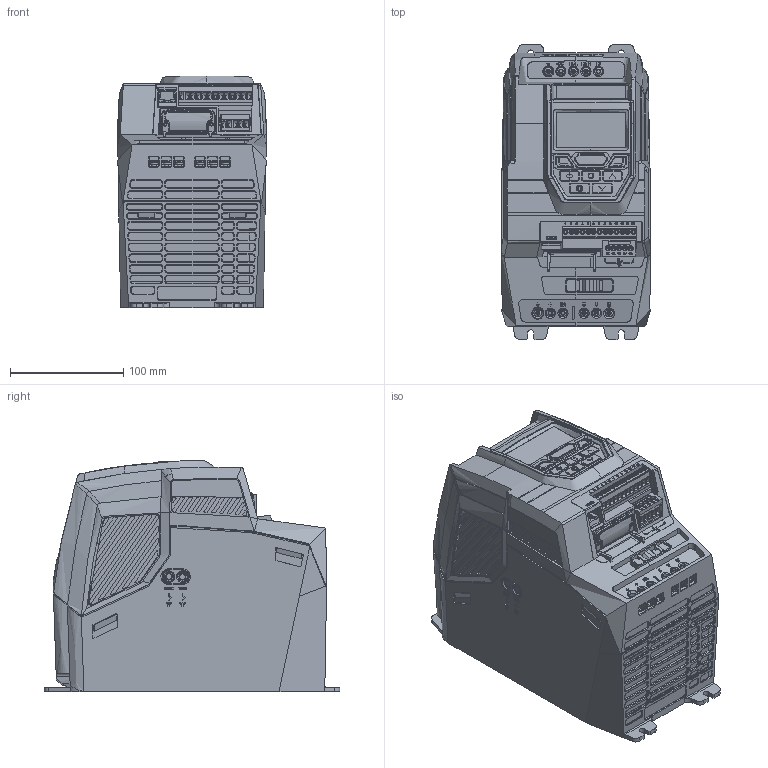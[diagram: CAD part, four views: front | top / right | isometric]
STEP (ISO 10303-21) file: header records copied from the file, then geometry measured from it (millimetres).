
FILE_DESCRIPTION (( 'STEP AP203' ), '1' );
FILE_NAME ('P2.IP20.S3.TFT.STEP', '2021-12-23T13:13:31', ( '' ), ( '' ), 'SwSTEP 2.0', 'SolidWorks 2021', '' );
FILE_SCHEMA (( 'CONFIG_CONTROL_DESIGN' ));
Products named in the file (1): P2.IP20.S3.TFT
Bounding box: 132.08 x 261 x 204.57 mm (x, y, z)
Volume: 5184748.3 mm3; surface area: 259492 mm2
Topology: 1 solids, 1 shells, 6340 faces, 16851 edges, 10850 vertices
Faces by surface type: plane 3505, bspline 1482, cylinder 1155, cone 141, torus 51, sphere 6
Entity records: 278450 total; most frequent: CARTESIAN_POINT 139484, ORIENTED_EDGE 33632, DIRECTION 20849, EDGE_CURVE 16816, VERTEX_POINT 10849, VECTOR 8835, LINE 8835, EDGE_LOOP 6791
